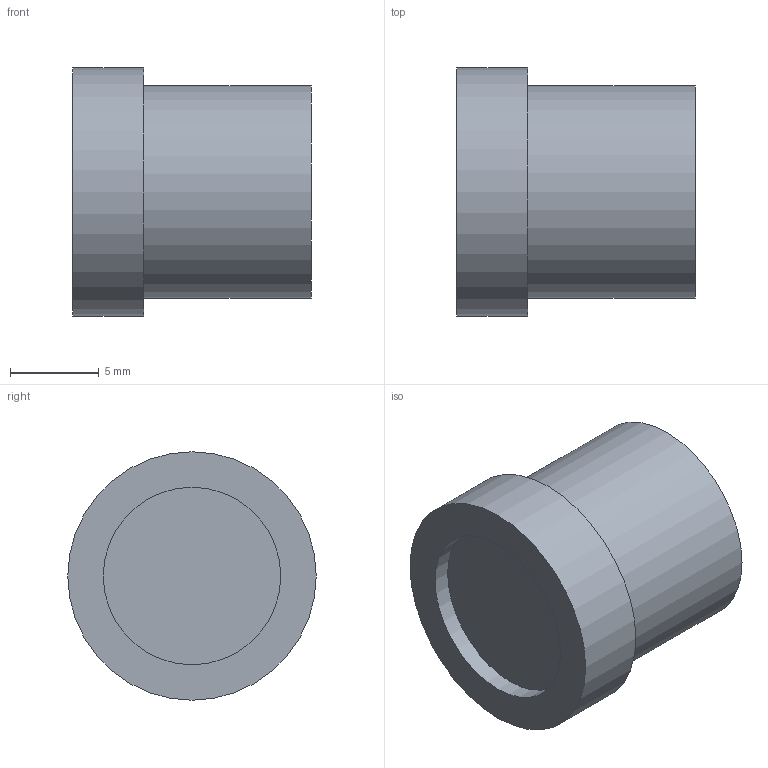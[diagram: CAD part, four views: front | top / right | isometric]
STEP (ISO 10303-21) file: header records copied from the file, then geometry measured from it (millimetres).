
FILE_DESCRIPTION(/* description */ (''),/* implementation_level */ '2;1');
FILE_NAME(/* name */ '3DCAD_Lens_S_M12_8Fxxx.stp',/* time_stamp */ '2022-06-10T09:45:34+02:00',/* author */ ('CC2'),/* organization */ ('Leuze electronic'),/* preprocessor_version */ 'ST-DEVELOPER v16',/* originating_system */ 'SIEMENS PLM Software NX 11.0',/* authorisation */ '');
FILE_SCHEMA (('AUTOMOTIVE_DESIGN { 1 0 10303 214 3 1 1 1 }'));
Length unit declared in the file: millimetre
Products named in the file (1): 19-103478_00_1-3DCAD_Lens_S_M12_8Fxxx
Bounding box: 13.46 x 14 x 14 mm (x, y, z)
Volume: 1607.1 mm3; surface area: 871.9 mm2
Topology: 1 solids, 1 shells, 7 faces, 9 edges, 6 vertices
Faces by surface type: plane 4, cylinder 3
Full cylindrical faces by diameter (mm): 10 x1, 12 x1, 14 x1
Entity records: 158 total; most frequent: DIRECTION 28, CARTESIAN_POINT 20, AXIS2_PLACEMENT_3D 14, EDGE_LOOP 12, ORIENTED_EDGE 12, FACE_BOUND 10, ADVANCED_FACE 7, VERTEX_POINT 6
